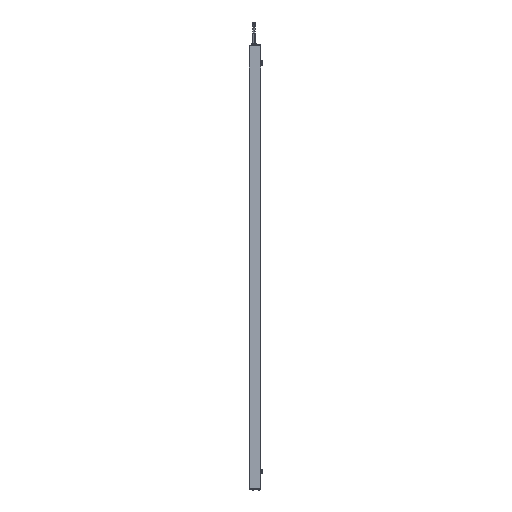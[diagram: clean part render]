
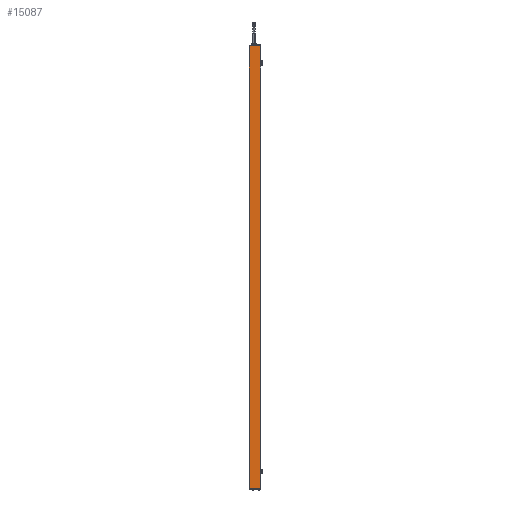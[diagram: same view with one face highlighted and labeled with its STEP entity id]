
A CAD part, left-side view. The second image highlights one B-rep face of the part: STEP entity #15087.
In plain terms, the highlighted planar face has unit normal (-1, 0, 0).
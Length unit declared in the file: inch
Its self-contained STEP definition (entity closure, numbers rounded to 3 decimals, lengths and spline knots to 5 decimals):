
#708 = PLANE ( 'NONE',  #7812 ) ;
#769 = CARTESIAN_POINT ( 'NONE',  ( -0.665, 0., 21.6675 ) ) ;
#806 = EDGE_CURVE ( 'NONE', #15598, #12850, #14722, .T. ) ;
#840 = VERTEX_POINT ( 'NONE', #1680 ) ;
#868 = VECTOR ( 'NONE', #17368, 39.37008 ) ;
#1567 = DIRECTION ( 'NONE',  ( 0., 0., 1. ) ) ;
#1680 = CARTESIAN_POINT ( 'NONE',  ( -0.665, 0.015, -21.6675 ) ) ;
#1776 = ORIENTED_EDGE ( 'NONE', *, *, #16217, .F. ) ;
#2113 = VERTEX_POINT ( 'NONE', #4230 ) ;
#2162 = DIRECTION ( 'NONE',  ( 1., 0., 0. ) ) ;
#2740 = VECTOR ( 'NONE', #8893, 39.37008 ) ;
#2769 = LINE ( 'NONE', #18014, #7505 ) ;
#4230 = CARTESIAN_POINT ( 'NONE',  ( -0.665, 0.015, 21.6675 ) ) ;
#4662 = LINE ( 'NONE', #11178, #868 ) ;
#5024 = DIRECTION ( 'NONE',  ( 0., 0., -1. ) ) ;
#6641 = FACE_OUTER_BOUND ( 'NONE', #17297, .T. ) ;
#7505 = VECTOR ( 'NONE', #11370, 39.37008 ) ;
#7685 = CARTESIAN_POINT ( 'NONE',  ( -0.665, 1.105, 21.6675 ) ) ;
#7812 = AXIS2_PLACEMENT_3D ( 'NONE', #769, #2162, #5024 ) ;
#8668 = CARTESIAN_POINT ( 'NONE',  ( -0.665, 0.015, 21.6675 ) ) ;
#8893 = DIRECTION ( 'NONE',  ( 0., 0., -1. ) ) ;
#9568 = EDGE_CURVE ( 'NONE', #12850, #840, #4662, .T. ) ;
#10287 = CARTESIAN_POINT ( 'NONE',  ( -0.665, 1.105, 21.6675 ) ) ;
#11178 = CARTESIAN_POINT ( 'NONE',  ( -0.665, 0., -21.6675 ) ) ;
#11209 = EDGE_CURVE ( 'NONE', #840, #2113, #14877, .T. ) ;
#11370 = DIRECTION ( 'NONE',  ( 0., -1., 0. ) ) ;
#11493 = CARTESIAN_POINT ( 'NONE',  ( -0.665, 1.105, -21.6675 ) ) ;
#12850 = VERTEX_POINT ( 'NONE', #11493 ) ;
#13748 = ORIENTED_EDGE ( 'NONE', *, *, #806, .T. ) ;
#14722 = LINE ( 'NONE', #10287, #2740 ) ;
#14877 = LINE ( 'NONE', #8668, #17633 ) ;
#14985 = ORIENTED_EDGE ( 'NONE', *, *, #9568, .T. ) ;
#15087 = ADVANCED_FACE ( 'NONE', ( #6641 ), #708, .F. ) ;
#15598 = VERTEX_POINT ( 'NONE', #7685 ) ;
#16217 = EDGE_CURVE ( 'NONE', #15598, #2113, #2769, .T. ) ;
#17297 = EDGE_LOOP ( 'NONE', ( #1776, #13748, #14985, #17334 ) ) ;
#17334 = ORIENTED_EDGE ( 'NONE', *, *, #11209, .T. ) ;
#17368 = DIRECTION ( 'NONE',  ( 0., -1., 0. ) ) ;
#17633 = VECTOR ( 'NONE', #1567, 39.37008 ) ;
#18014 = CARTESIAN_POINT ( 'NONE',  ( -0.665, 0., 21.6675 ) ) ;
